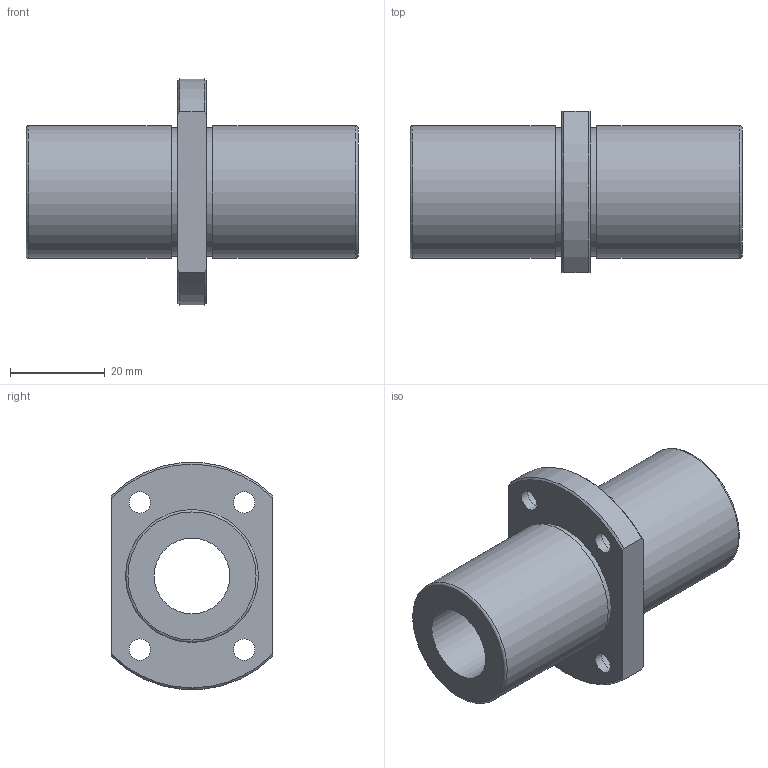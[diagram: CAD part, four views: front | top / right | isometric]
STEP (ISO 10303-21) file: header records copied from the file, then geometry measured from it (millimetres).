
FILE_DESCRIPTION(('STEP AP203'),'1');
FILE_NAME('//192.168.1.1/share/s-4 技術開発/s-4-4_CAD/s-4-4-3_見直し済み/002 修正済み/NFCO-VL/NFCO-VL_TOP/NFCO-16VLUU.step','2022-03-08T05:35:01',(' '),(' '),'Spatial InterOp 3D',' ',' ');
FILE_SCHEMA(('CONFIG_CONTROL_DESIGN'));
Length unit declared in the file: millimetre
Products named in the file (1): 1
Bounding box: 70 x 34 x 47.82 mm (x, y, z)
Volume: 33242.6 mm3; surface area: 13028.1 mm2
Topology: 1 solids, 1 shells, 33 faces, 67 edges, 44 vertices
Faces by surface type: cylinder 15, plane 12, cone 4, torus 2
Full cylindrical faces by diameter (mm): 4.5 x4, 7.5 x4, 16 x1, 27 x2, 28 x2
Entity records: 878 total; most frequent: CARTESIAN_POINT 154, DIRECTION 148, ORIENTED_EDGE 104, AXIS2_PLACEMENT_3D 70, EDGE_LOOP 66, EDGE_CURVE 52, FACE_OUTER_BOUND 48, VERTEX_POINT 44
